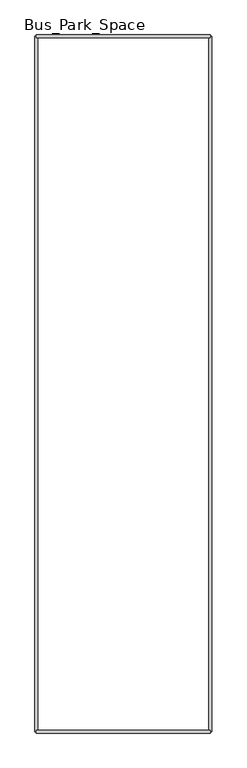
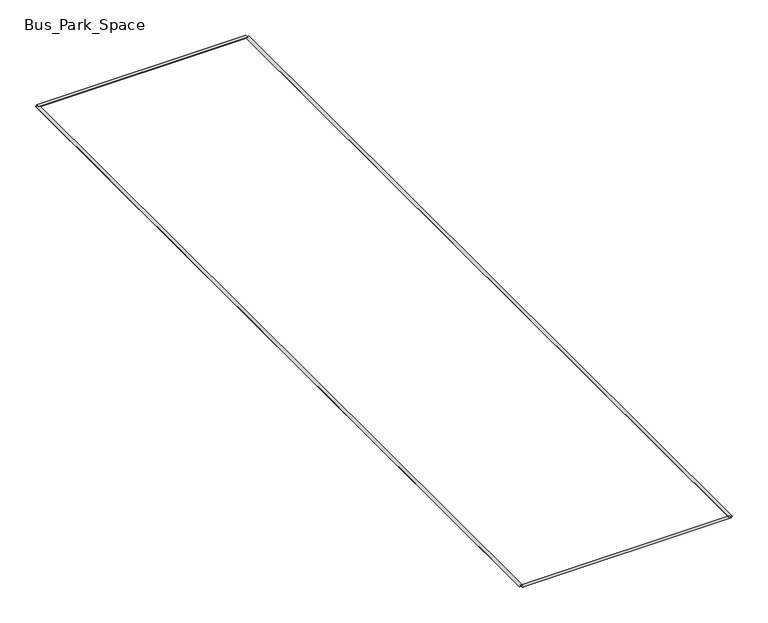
"""IFC4 building model written with IfcOpenShell, lengths in millimetres: proxy geometry, Bus_Park_Space : Perpendicular 3000x12000."""

from ifc_helpers import new_model, si_unit, origin, origin_with_axes, place, context, project, spatial, polyline, outline, extrude, source, transform, mapped, element, save


def bus_park_space_eeb452dd(model_context):
    return source(origin(), model_context, "Body", "SweptSolid", [
        extrude(outline(polyline([(3000.0, -11975.0), (3000.0, -12025.0), (0.0, -12025.0), (0.0, -11975.0), (3000.0, -11975.0)])), origin_with_axes(), (0.0, 0.0, 1.0), 3.175),
        extrude(outline(polyline([(3000.0, 25.0), (3000.0, -25.0), (0.0, -25.0), (0.0, 25.0), (3000.0, 25.0)])), origin_with_axes(), (0.0, 0.0, 1.0), 3.175),
        extrude(outline(polyline([(2975.0, 0.0), (3025.0, 0.0), (3025.0, -12000.0), (2975.0, -12000.0), (2975.0, 0.0)])), origin_with_axes(), (0.0, 0.0, 1.0), 3.175),
        extrude(outline(polyline([(-25.0, 0.0), (25.0, 0.0), (25.0, -12000.0), (-25.0, -12000.0), (-25.0, 0.0)])), origin_with_axes(), (0.0, 0.0, 1.0), 3.175),
    ])


if __name__ == "__main__":
    model = new_model("IFC4")
    model_context = context("Model", 3, world=origin())
    ifc_project = project(units=[si_unit("LENGTHUNIT", "METRE", prefix="MILLI")], contexts=[model_context])
    site = spatial("IfcSite", under=ifc_project)
    building = spatial("IfcBuilding", under=site)
    placement = place(None, origin())
    bus_park_space_shape = bus_park_space_eeb452dd(model_context)
    element("IfcBuildingElementProxy", 1, Name="Bus_Park_Space : Perpendicular 3000x12000", ObjectType="Bus_Park_Space : Perpendicular 3000x12000", at=placement, inside=building, context=model_context, shape_type="MappedRepresentation", body=[
        mapped(bus_park_space_shape, transform((0.0, 0.0, 0.0), x_axis=(1.0, 0.0, 0.0), y_axis=(0.0, 1.0, 0.0), z_axis=(0.0, 0.0, 1.0))),
    ])
    save(model, "model.ifc")
